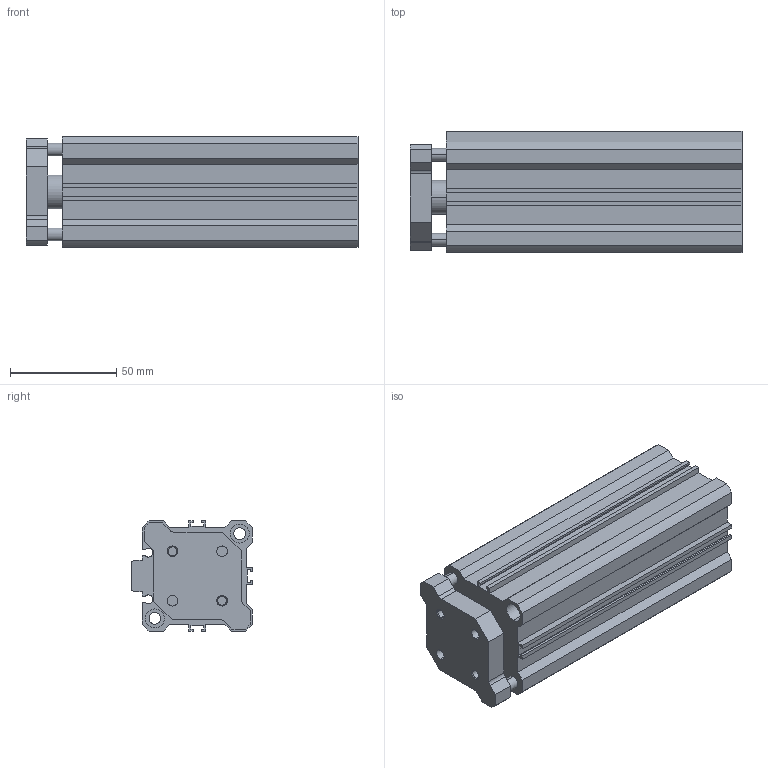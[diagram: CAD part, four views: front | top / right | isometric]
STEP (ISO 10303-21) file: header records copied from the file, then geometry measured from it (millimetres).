
FILE_DESCRIPTION (( 'STEP AP203' ), '1' );
FILE_NAME ('CCMG40-100.STEP', '2020-04-01T18:46:27', ( '' ), ( '' ), 'SwSTEP 2.0', 'SolidWorks 2019', '' );
FILE_SCHEMA (( 'CONFIG_CONTROL_DESIGN' ));
Length unit declared in the file: millimetre
Products named in the file (1): CCMG40-100
Bounding box: 156.5 x 57 x 52 mm (x, y, z)
Volume: 252772 mm3; surface area: 90389.2 mm2
Topology: 2 solids, 2 shells, 164 faces, 428 edges, 278 vertices
Faces by surface type: plane 92, cylinder 56, cone 16
Entity records: 5099 total; most frequent: DIRECTION 878, CARTESIAN_POINT 867, ORIENTED_EDGE 848, EDGE_CURVE 424, LINE 300, VECTOR 300, AXIS2_PLACEMENT_3D 289, VERTEX_POINT 278
